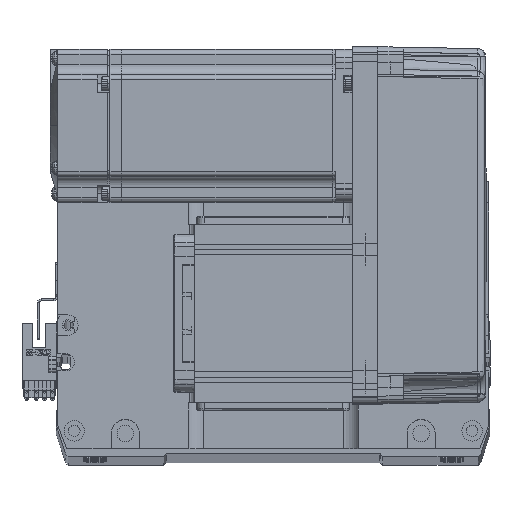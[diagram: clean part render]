
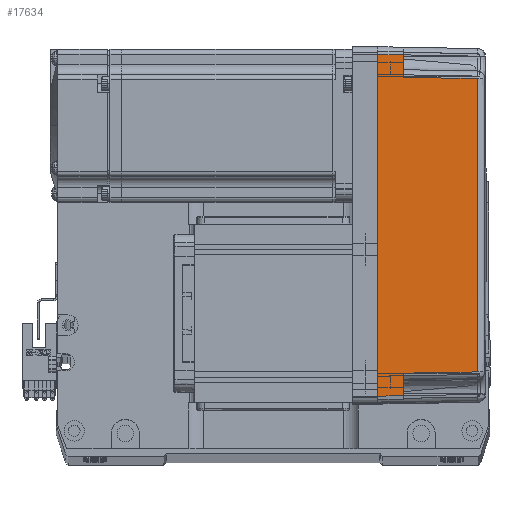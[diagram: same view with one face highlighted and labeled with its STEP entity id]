
A CAD part, top view. The second image highlights one B-rep face of the part: STEP entity #17634.
In plain terms, the highlighted planar face has unit normal (0.018, 0, 1) as drawn and (0, -1, 0.017) by its records, which use the part's own axes.
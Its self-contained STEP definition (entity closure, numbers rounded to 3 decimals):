
#107 = CARTESIAN_POINT ( 'NONE',  ( 0., -36., 0. ) ) ;
#919 = LINE ( 'NONE', #61030, #9135 ) ;
#2429 = CARTESIAN_POINT ( 'NONE',  ( 67., -36., 0. ) ) ;
#3051 = EDGE_CURVE ( 'NONE', #24964, #17284, #63613, .T. ) ;
#3202 = VERTEX_POINT ( 'NONE', #65447 ) ;
#3489 = DIRECTION ( 'NONE',  ( 0., -0.017, -1. ) ) ;
#4701 = VECTOR ( 'NONE', #52659, 1000. ) ;
#6255 = VERTEX_POINT ( 'NONE', #6564 ) ;
#6564 = CARTESIAN_POINT ( 'NONE',  ( 58., -35.825, 10. ) ) ;
#7529 = ORIENTED_EDGE ( 'NONE', *, *, #42712, .T. ) ;
#8221 = LINE ( 'NONE', #14632, #49579 ) ;
#9135 = VECTOR ( 'NONE', #66388, 1000. ) ;
#12318 = CARTESIAN_POINT ( 'NONE',  ( -57.495, -35.32, 38.985 ) ) ;
#13933 = DIRECTION ( 'NONE',  ( -0.017, 0.017, 1. ) ) ;
#14632 = CARTESIAN_POINT ( 'NONE',  ( 67., -36., 0. ) ) ;
#14834 = ORIENTED_EDGE ( 'NONE', *, *, #25697, .T. ) ;
#14850 = ORIENTED_EDGE ( 'NONE', *, *, #51045, .F. ) ;
#17284 = VERTEX_POINT ( 'NONE', #51587 ) ;
#17634 = ADVANCED_FACE ( 'NONE', ( #50282 ), #22302, .T. ) ;
#19187 = CARTESIAN_POINT ( 'NONE',  ( -19.165, -35.316, 39.181 ) ) ;
#19394 = CARTESIAN_POINT ( 'NONE',  ( -57.495, -35.32, 38.985 ) ) ;
#20586 = EDGE_CURVE ( 'NONE', #65896, #24964, #919, .T. ) ;
#22302 = PLANE ( 'NONE',  #52448 ) ;
#22315 = VECTOR ( 'NONE', #54202, 1000. ) ;
#22980 = CARTESIAN_POINT ( 'NONE',  ( 70., -36., 0. ) ) ;
#23405 = LINE ( 'NONE', #34366, #37238 ) ;
#24964 = VERTEX_POINT ( 'NONE', #61737 ) ;
#25697 = EDGE_CURVE ( 'NONE', #6255, #53148, #23405, .T. ) ;
#28413 = DIRECTION ( 'NONE',  ( 0., -1., 0.017 ) ) ;
#31528 = ORIENTED_EDGE ( 'NONE', *, *, #45359, .T. ) ;
#31645 = EDGE_LOOP ( 'NONE', ( #31528, #7529, #14834, #43148, #66564, #60869, #55816, #14850 ) ) ;
#32267 = LINE ( 'NONE', #58329, #41173 ) ;
#33873 = CARTESIAN_POINT ( 'NONE',  ( 70., -35.825, 10. ) ) ;
#34366 = CARTESIAN_POINT ( 'NONE',  ( 58., -35.825, 10. ) ) ;
#37149 = DIRECTION ( 'NONE',  ( 0.017, 0.017, 1. ) ) ;
#37238 = VECTOR ( 'NONE', #13933, 1000. ) ;
#38505 = CARTESIAN_POINT ( 'NONE',  ( 57.495, -35.32, 38.985 ) ) ;
#41173 = VECTOR ( 'NONE', #37149, 1000. ) ;
#41952 = EDGE_CURVE ( 'NONE', #53148, #65896, #42904, .T. ) ;
#42712 = EDGE_CURVE ( 'NONE', #61184, #6255, #64637, .T. ) ;
#42904 = B_SPLINE_CURVE_WITH_KNOTS ( 'NONE', 3,
 ( #50211, #45472, #19187, #19394 ),
 .UNSPECIFIED., .F., .F.,
 ( 4, 4 ),
 ( 0., 1. ),
 .UNSPECIFIED. ) ;
#43148 = ORIENTED_EDGE ( 'NONE', *, *, #41952, .T. ) ;
#45359 = EDGE_CURVE ( 'NONE', #50194, #61184, #8221, .T. ) ;
#45464 = CARTESIAN_POINT ( 'NONE',  ( 66.826, -35.825, 10. ) ) ;
#45472 = CARTESIAN_POINT ( 'NONE',  ( 19.165, -35.316, 39.181 ) ) ;
#46291 = DIRECTION ( 'NONE',  ( -1., 0., 0. ) ) ;
#48248 = EDGE_CURVE ( 'NONE', #3202, #17284, #32267, .T. ) ;
#49579 = VECTOR ( 'NONE', #61461, 1000. ) ;
#50194 = VERTEX_POINT ( 'NONE', #2429 ) ;
#50211 = CARTESIAN_POINT ( 'NONE',  ( 57.495, -35.32, 38.985 ) ) ;
#50282 = FACE_OUTER_BOUND ( 'NONE', #31645, .T. ) ;
#51045 = EDGE_CURVE ( 'NONE', #50194, #3202, #59755, .T. ) ;
#51587 = CARTESIAN_POINT ( 'NONE',  ( -66.826, -35.825, 10. ) ) ;
#52448 = AXIS2_PLACEMENT_3D ( 'NONE', #22980, #28413, #3489 ) ;
#52471 = CARTESIAN_POINT ( 'NONE',  ( 70., -35.825, 10. ) ) ;
#52659 = DIRECTION ( 'NONE',  ( -1., 0., 0. ) ) ;
#53148 = VERTEX_POINT ( 'NONE', #38505 ) ;
#54202 = DIRECTION ( 'NONE',  ( -1., 0., 0. ) ) ;
#55816 = ORIENTED_EDGE ( 'NONE', *, *, #48248, .F. ) ;
#58329 = CARTESIAN_POINT ( 'NONE',  ( -66.959, -35.958, 2.39 ) ) ;
#59755 = LINE ( 'NONE', #107, #63729 ) ;
#60869 = ORIENTED_EDGE ( 'NONE', *, *, #3051, .T. ) ;
#61030 = CARTESIAN_POINT ( 'NONE',  ( -57.495, -35.32, 38.985 ) ) ;
#61184 = VERTEX_POINT ( 'NONE', #45464 ) ;
#61461 = DIRECTION ( 'NONE',  ( -0.017, 0.017, 1. ) ) ;
#61737 = CARTESIAN_POINT ( 'NONE',  ( -58., -35.825, 10. ) ) ;
#63613 = LINE ( 'NONE', #33873, #22315 ) ;
#63729 = VECTOR ( 'NONE', #46291, 1000. ) ;
#64637 = LINE ( 'NONE', #52471, #4701 ) ;
#65447 = CARTESIAN_POINT ( 'NONE',  ( -67., -36., 0. ) ) ;
#65896 = VERTEX_POINT ( 'NONE', #12318 ) ;
#66388 = DIRECTION ( 'NONE',  ( -0.017, -0.017, -1. ) ) ;
#66564 = ORIENTED_EDGE ( 'NONE', *, *, #20586, .T. ) ;
